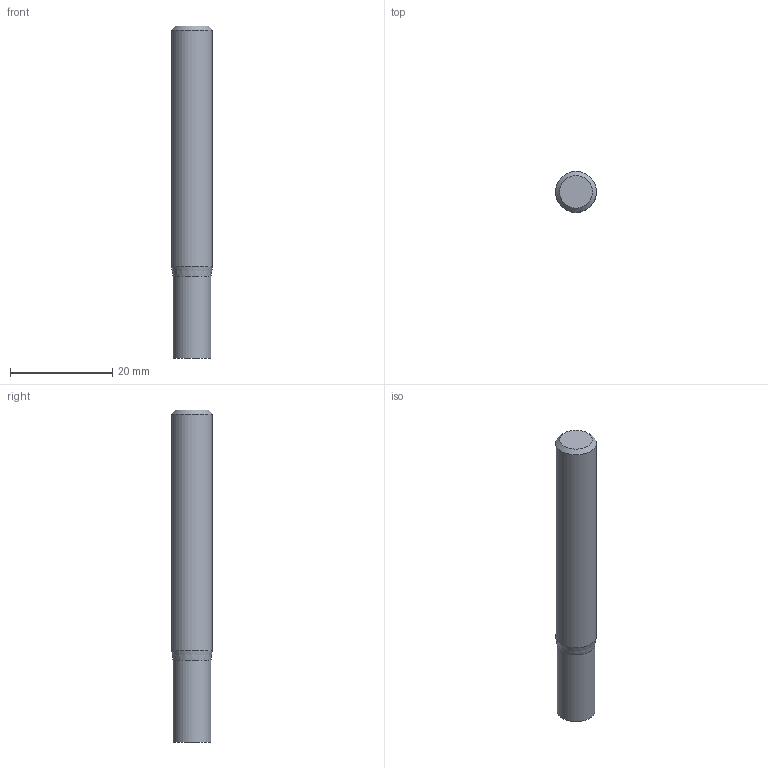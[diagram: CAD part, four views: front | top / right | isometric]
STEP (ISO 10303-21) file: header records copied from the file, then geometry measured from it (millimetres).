
FILE_DESCRIPTION((''),'2;1');
FILE_NAME('C:\Users\nsx150\AppData\Local\Temp\Mastercam 2021\98T1Q6BTT1\TEMP.step','2021-10-21T14:49:23',(''),(''),'STEP Write','Mastercam 2021 ... CNC Software, Inc.','');
FILE_SCHEMA(('AUTOMOTIVE_DESIGN'));
Length unit declared in the file: millimetre
Products named in the file (1): None
Bounding box: 8 x 8 x 65 mm (x, y, z)
Volume: 3136.7 mm3; surface area: 1768.9 mm2
Topology: 2 solids, 2 shells, 8 faces, 10 edges, 6 vertices
Faces by surface type: plane 4, cylinder 2, cone 2
Full cylindrical faces by diameter (mm): 7.4 x1, 8 x1
Entity records: 190 total; most frequent: DIRECTION 32, CARTESIAN_POINT 22, AXIS2_PLACEMENT_3D 16, ORIENTED_EDGE 12, EDGE_LOOP 12, STYLED_ITEM 11, ADVANCED_FACE 8, VERTEX_POINT 6
